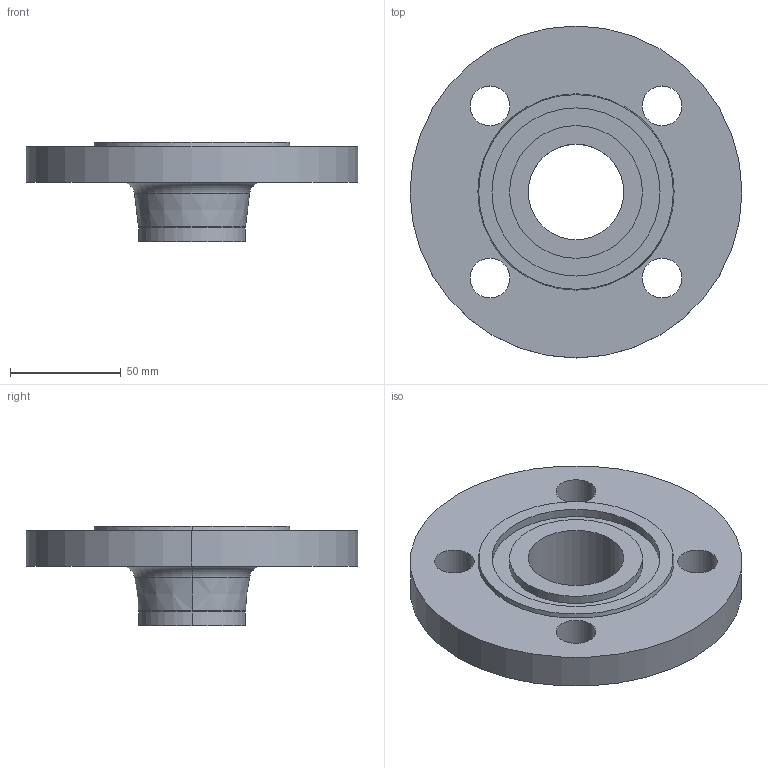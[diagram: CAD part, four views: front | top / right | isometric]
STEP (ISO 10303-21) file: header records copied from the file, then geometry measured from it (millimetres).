
FILE_DESCRIPTION (( 'STEP AP214' ), '1' );
FILE_NAME ('PN40 DN40 Type 11 - Type D Face.STEP', '2018-12-30T02:21:44', ( '' ), ( '' ), 'SwSTEP 2.0', 'SolidWorks 2019', '' );
FILE_SCHEMA (( 'AUTOMOTIVE_DESIGN' ));
Length unit declared in the file: millimetre
Products named in the file (1): PN40 DN40 Type 11 - Type D Face
Bounding box: 150 x 150 x 45 mm (x, y, z)
Volume: 260789.9 mm3; surface area: 53386.3 mm2
Topology: 1 solids, 1 shells, 32 faces, 72 edges, 46 vertices
Faces by surface type: cylinder 18, plane 6, torus 4, cone 4
Entity records: 972 total; most frequent: DIRECTION 188, CARTESIAN_POINT 151, ORIENTED_EDGE 144, AXIS2_PLACEMENT_3D 83, EDGE_CURVE 72, CIRCLE 50, VERTEX_POINT 46, EDGE_LOOP 46
